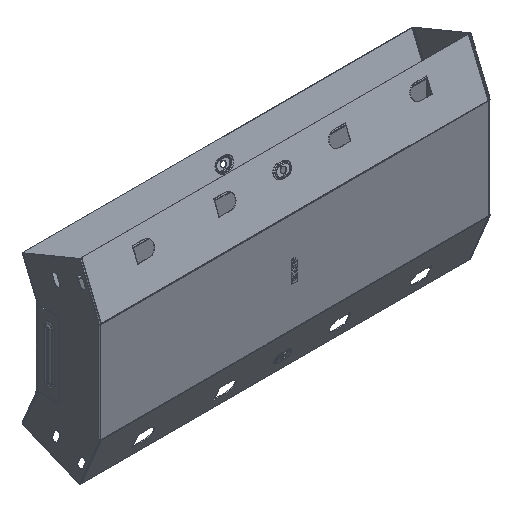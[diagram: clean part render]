
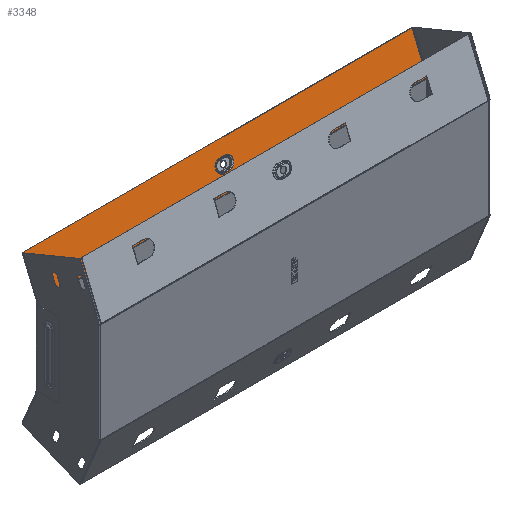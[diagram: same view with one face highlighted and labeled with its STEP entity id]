
A CAD part, isometric view. The second image highlights one B-rep face of the part: STEP entity #3348.
In plain terms, the highlighted planar face has unit normal (0, -0.924, 0.383).
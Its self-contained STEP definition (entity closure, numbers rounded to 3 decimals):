
#64 = CARTESIAN_POINT ( 'NONE',  ( -249., -0.663, 48.49 ) ) ;
#532 = VERTEX_POINT ( 'NONE', #4220 ) ;
#539 = LINE ( 'NONE', #6152, #11577 ) ;
#612 = CARTESIAN_POINT ( 'NONE',  ( -3.5, 9.211, 72.327 ) ) ;
#709 = VERTEX_POINT ( 'NONE', #8535 ) ;
#825 = EDGE_CURVE ( 'NONE', #4014, #2045, #5109, .T. ) ;
#829 = FACE_OUTER_BOUND ( 'NONE', #6321, .T. ) ;
#1005 = VERTEX_POINT ( 'NONE', #12920 ) ;
#1049 = EDGE_CURVE ( 'NONE', #5282, #14834, #7315, .T. ) ;
#1287 = DIRECTION ( 'NONE',  ( 0., -0.383, -0.924 ) ) ;
#1768 = DIRECTION ( 'NONE',  ( 0., -0.383, -0.924 ) ) ;
#1904 = CARTESIAN_POINT ( 'NONE',  ( -3.5, 12.118, 79.347 ) ) ;
#1993 = VECTOR ( 'NONE', #14745, 1000. ) ;
#2045 = VERTEX_POINT ( 'NONE', #11452 ) ;
#2763 = DIRECTION ( 'NONE',  ( 0., 0.924, -0.383 ) ) ;
#3070 = VECTOR ( 'NONE', #10546, 1000. ) ;
#3109 = VECTOR ( 'NONE', #1287, 1000. ) ;
#3245 = DIRECTION ( 'NONE',  ( 0., -0.924, 0.383 ) ) ;
#3348 = ADVANCED_FACE ( 'NONE', ( #3400, #829 ), #6438, .F. ) ;
#3400 = FACE_BOUND ( 'NONE', #13040, .T. ) ;
#4014 = VERTEX_POINT ( 'NONE', #7864 ) ;
#4215 = LINE ( 'NONE', #1904, #14868 ) ;
#4220 = CARTESIAN_POINT ( 'NONE',  ( -249., 18.395, 94.5 ) ) ;
#5109 = LINE ( 'NONE', #9971, #1993 ) ;
#5256 = DIRECTION ( 'NONE',  ( -1., 0., 0. ) ) ;
#5282 = VERTEX_POINT ( 'NONE', #12750 ) ;
#5290 = EDGE_CURVE ( 'NONE', #1005, #709, #4215, .T. ) ;
#6152 = CARTESIAN_POINT ( 'NONE',  ( -249., -0.739, 48.306 ) ) ;
#6160 = EDGE_CURVE ( 'NONE', #7053, #532, #11642, .T. ) ;
#6211 = ORIENTED_EDGE ( 'NONE', *, *, #9288, .F. ) ;
#6260 = ORIENTED_EDGE ( 'NONE', *, *, #15122, .T. ) ;
#6321 = EDGE_LOOP ( 'NONE', ( #6260, #9037, #13041, #7114 ) ) ;
#6385 = CARTESIAN_POINT ( 'NONE',  ( 249., -0.739, 48.306 ) ) ;
#6438 = PLANE ( 'NONE',  #15036 ) ;
#6785 = ORIENTED_EDGE ( 'NONE', *, *, #9675, .F. ) ;
#6921 = AXIS2_PLACEMENT_3D ( 'NONE', #10294, #3245, #12687 ) ;
#7053 = VERTEX_POINT ( 'NONE', #10157 ) ;
#7114 = ORIENTED_EDGE ( 'NONE', *, *, #6160, .T. ) ;
#7186 = DIRECTION ( 'NONE',  ( 0., -0.383, -0.924 ) ) ;
#7315 = LINE ( 'NONE', #9270, #3070 ) ;
#7864 = CARTESIAN_POINT ( 'NONE',  ( -3.5, 6.303, 65.307 ) ) ;
#7963 = CARTESIAN_POINT ( 'NONE',  ( 249., 18.395, 94.5 ) ) ;
#8229 = EDGE_CURVE ( 'NONE', #7053, #5282, #14519, .T. ) ;
#8487 = CARTESIAN_POINT ( 'NONE',  ( 249., -0.739, 48.306 ) ) ;
#8535 = CARTESIAN_POINT ( 'NONE',  ( -3.5, 12.118, 79.347 ) ) ;
#9037 = ORIENTED_EDGE ( 'NONE', *, *, #1049, .F. ) ;
#9270 = CARTESIAN_POINT ( 'NONE',  ( 249., -0.663, 48.49 ) ) ;
#9288 = EDGE_CURVE ( 'NONE', #709, #4014, #11944, .T. ) ;
#9476 = AXIS2_PLACEMENT_3D ( 'NONE', #612, #12351, #1768 ) ;
#9675 = EDGE_CURVE ( 'NONE', #2045, #1005, #14327, .T. ) ;
#9971 = CARTESIAN_POINT ( 'NONE',  ( -3.5, 6.303, 65.307 ) ) ;
#10157 = CARTESIAN_POINT ( 'NONE',  ( 249., 18.395, 94.5 ) ) ;
#10181 = DIRECTION ( 'NONE',  ( -1., 0., 0. ) ) ;
#10294 = CARTESIAN_POINT ( 'NONE',  ( 3.5, 9.211, 72.327 ) ) ;
#10307 = VECTOR ( 'NONE', #5256, 1000. ) ;
#10546 = DIRECTION ( 'NONE',  ( -1., 0., 0. ) ) ;
#11452 = CARTESIAN_POINT ( 'NONE',  ( 3.5, 6.303, 65.307 ) ) ;
#11577 = VECTOR ( 'NONE', #7186, 1000. ) ;
#11642 = LINE ( 'NONE', #7963, #10307 ) ;
#11944 = CIRCLE ( 'NONE', #9476, 7.598 ) ;
#12351 = DIRECTION ( 'NONE',  ( 0., -0.924, 0.383 ) ) ;
#12687 = DIRECTION ( 'NONE',  ( 0., -0.383, -0.924 ) ) ;
#12750 = CARTESIAN_POINT ( 'NONE',  ( 249., -0.663, 48.49 ) ) ;
#12920 = CARTESIAN_POINT ( 'NONE',  ( 3.5, 12.118, 79.347 ) ) ;
#12959 = ORIENTED_EDGE ( 'NONE', *, *, #5290, .F. ) ;
#13040 = EDGE_LOOP ( 'NONE', ( #6785, #14874, #6211, #12959 ) ) ;
#13041 = ORIENTED_EDGE ( 'NONE', *, *, #8229, .F. ) ;
#14327 = CIRCLE ( 'NONE', #6921, 7.598 ) ;
#14519 = LINE ( 'NONE', #8487, #3109 ) ;
#14649 = DIRECTION ( 'NONE',  ( 0., 0.383, 0.924 ) ) ;
#14745 = DIRECTION ( 'NONE',  ( 1., 0., 0. ) ) ;
#14834 = VERTEX_POINT ( 'NONE', #64 ) ;
#14868 = VECTOR ( 'NONE', #10181, 1000. ) ;
#14874 = ORIENTED_EDGE ( 'NONE', *, *, #825, .F. ) ;
#15036 = AXIS2_PLACEMENT_3D ( 'NONE', #6385, #2763, #14649 ) ;
#15122 = EDGE_CURVE ( 'NONE', #532, #14834, #539, .T. ) ;
